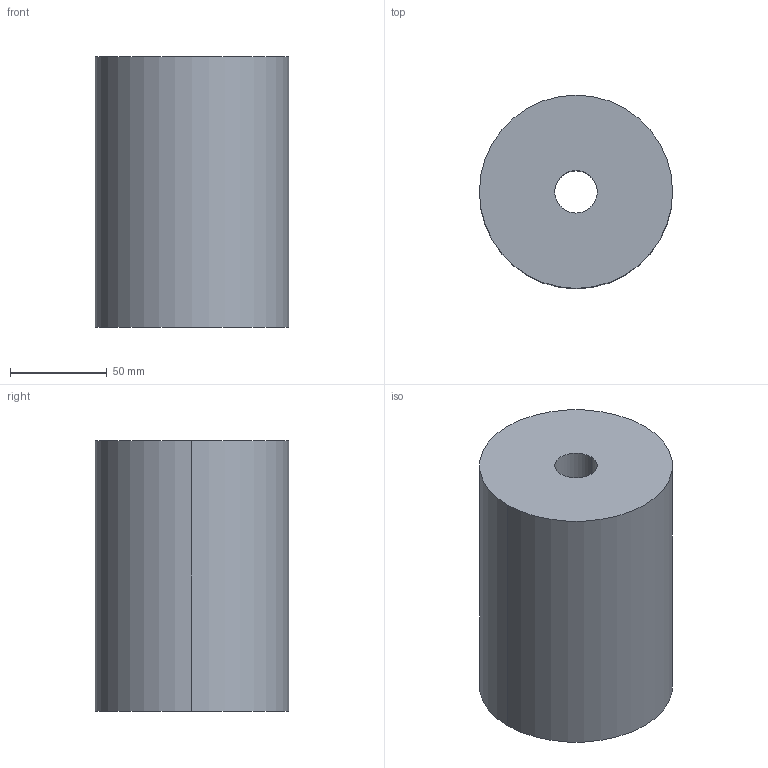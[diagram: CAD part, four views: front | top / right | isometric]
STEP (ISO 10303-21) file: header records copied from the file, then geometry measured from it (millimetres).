
FILE_DESCRIPTION(/* description */ (''),/* implementation_level */ '2;1');
FILE_NAME(/* name */ '3d_e100-140_03722_r00.stp',/* time_stamp */ '2011-01-10T14:15:49+09:00',/* author */ ('MISUMI'),/* organization */ (''),/* preprocessor_version */ 'ST-DEVELOPER v11',/* originating_system */ 'UGS - NX 5.0',/* authorisation */ '');
FILE_SCHEMA (('CONFIG_CONTROL_DESIGN'));
Length unit declared in the file: millimetre
Products named in the file (1): 3d_e100-140_03722_r00
Bounding box: 100 x 100 x 140 mm (x, y, z)
Volume: 1046338.8 mm3; surface area: 68606.1 mm2
Topology: 1 solids, 1 shells, 6 faces, 12 edges, 8 vertices
Faces by surface type: cylinder 4, plane 2
Entity records: 254 total; most frequent: DIRECTION 34, CARTESIAN_POINT 27, ORIENTED_EDGE 24, AXIS2_PLACEMENT_3D 15, EDGE_CURVE 12, EDGE_LOOP 8, VERTEX_POINT 8, CIRCLE 8
